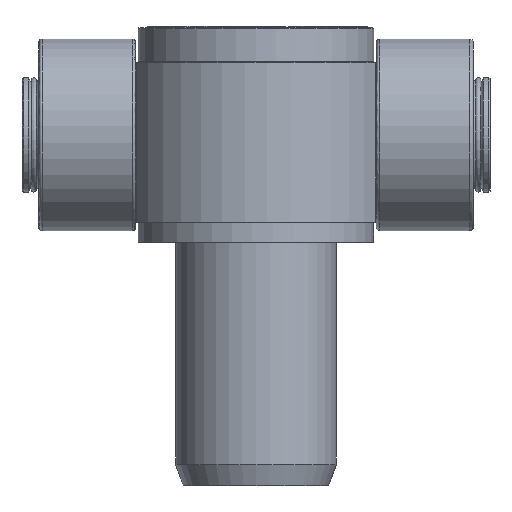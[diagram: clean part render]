
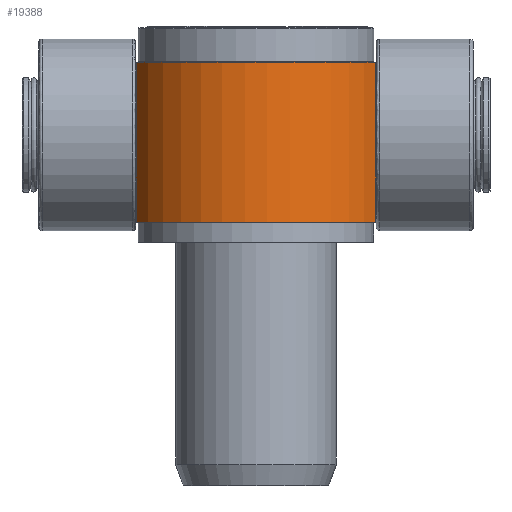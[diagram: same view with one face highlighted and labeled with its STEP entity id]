
A CAD part, top view. The second image highlights one B-rep face of the part: STEP entity #19388.
In plain terms, the highlighted cylindrical face has radius 79 mm (diameter 158 mm), a partial arc.
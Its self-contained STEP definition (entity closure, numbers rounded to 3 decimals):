
#2342=CYLINDRICAL_SURFACE('',#20614,79.);
#2435=FACE_OUTER_BOUND('',#3537,.T.);
#3537=EDGE_LOOP('',(#13385,#13386,#13387,#13388));
#4704=LINE('',#25386,#6373);
#4707=LINE('',#25601,#6376);
#6373=VECTOR('',#21597,10.);
#6376=VECTOR('',#21604,10.);
#8053=CIRCLE('',#20606,79.);
#8057=CIRCLE('',#20612,79.);
#8277=VERTEX_POINT('',#25380);
#8279=VERTEX_POINT('',#25384);
#8282=VERTEX_POINT('',#25597);
#8284=VERTEX_POINT('',#25600);
#10299=EDGE_CURVE('',#8277,#8279,#4704,.T.);
#10305=EDGE_CURVE('',#8284,#8282,#4707,.T.);
#10313=EDGE_CURVE('',#8284,#8279,#8053,.T.);
#10318=EDGE_CURVE('',#8277,#8282,#8057,.T.);
#13385=ORIENTED_EDGE('',*,*,#10305,.T.);
#13386=ORIENTED_EDGE('',*,*,#10318,.F.);
#13387=ORIENTED_EDGE('',*,*,#10299,.T.);
#13388=ORIENTED_EDGE('',*,*,#10313,.F.);
#19388=ADVANCED_FACE('',(#2435),#2342,.T.);
#20606=AXIS2_PLACEMENT_3D('',#25616,#21621,#21622);
#20612=AXIS2_PLACEMENT_3D('',#25624,#21634,#21635);
#20614=AXIS2_PLACEMENT_3D('',#25626,#21638,#21639);
#21597=DIRECTION('',(0.,0.,1.));
#21604=DIRECTION('',(0.,0.,-1.));
#21621=DIRECTION('center_axis',(0.,0.,1.));
#21622=DIRECTION('ref_axis',(-1.,0.,0.));
#21634=DIRECTION('center_axis',(0.,0.,-1.));
#21635=DIRECTION('ref_axis',(-1.,0.,0.));
#21638=DIRECTION('center_axis',(0.,0.,1.));
#21639=DIRECTION('ref_axis',(-1.,0.,0.));
#25380=CARTESIAN_POINT('',(-34.641,-71.,0.));
#25384=CARTESIAN_POINT('',(-34.641,-71.,95.));
#25386=CARTESIAN_POINT('',(-34.641,-71.,0.));
#25597=CARTESIAN_POINT('',(-34.641,71.,0.));
#25600=CARTESIAN_POINT('',(-34.641,71.,95.));
#25601=CARTESIAN_POINT('',(-34.641,71.,0.));
#25616=CARTESIAN_POINT('Origin',(0.,0.,95.));
#25624=CARTESIAN_POINT('Origin',(0.,0.,0.));
#25626=CARTESIAN_POINT('Origin',(0.,0.,0.));
